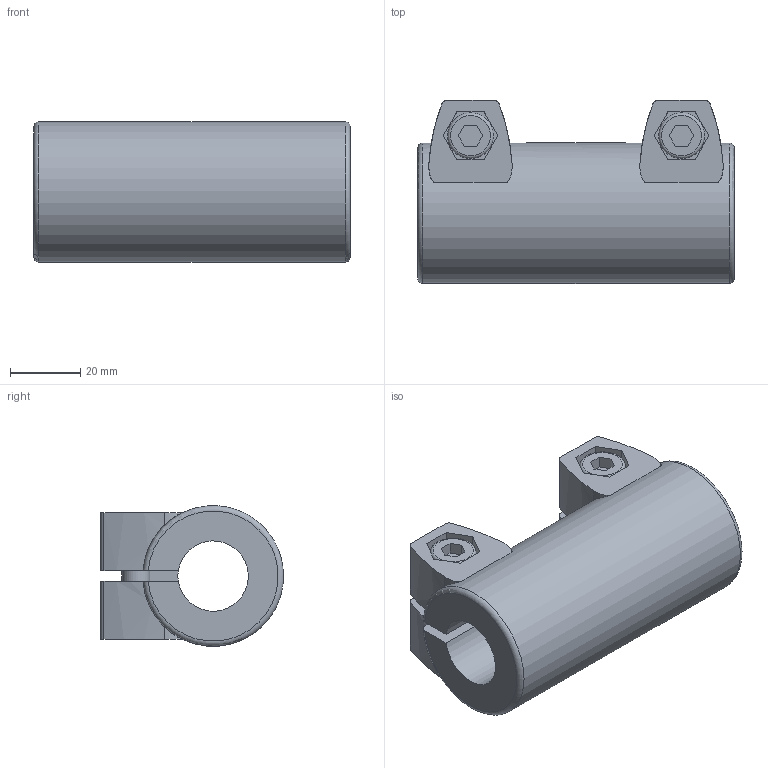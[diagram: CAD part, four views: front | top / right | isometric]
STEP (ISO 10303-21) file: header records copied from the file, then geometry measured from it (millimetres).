
FILE_DESCRIPTION( ( 'STEP AP203' ), '1' );
FILE_NAME( 'C:/Temp/Ganter_Step_05_03_2020/data/3_7/gn242/gn242_2/Tube connector GN 242-B20-B20-2-SW.stp', '2020-03-12T14:40:02', ( 'License CC BY-ND 4.0' ), ( 'CADENAS' ), ' ', 'PARTsolutions', ' ' );
FILE_SCHEMA( ( 'CONFIG_CONTROL_DESIGN' ) );
Length unit declared in the file: millimetre
Products named in the file (1): _Tube connector GN 242-B20-B20-2-SW
Bounding box: 90 x 52 x 39.96 mm (x, y, z)
Volume: 102274.3 mm3; surface area: 26637 mm2
Topology: 1 solids, 1 shells, 164 faces, 446 edges, 294 vertices
Faces by surface type: plane 84, cylinder 58, cone 14, torus 8
Full cylindrical faces by diameter (mm): 8 x2, 12 x2, 13 x2, 20 x1, 40 x1
Entity records: 5454 total; most frequent: CARTESIAN_POINT 1431, ORIENTED_EDGE 844, DIRECTION 782, EDGE_CURVE 422, VERTEX_POINT 288, AXIS2_PLACEMENT_3D 277, LINE 228, VECTOR 228
